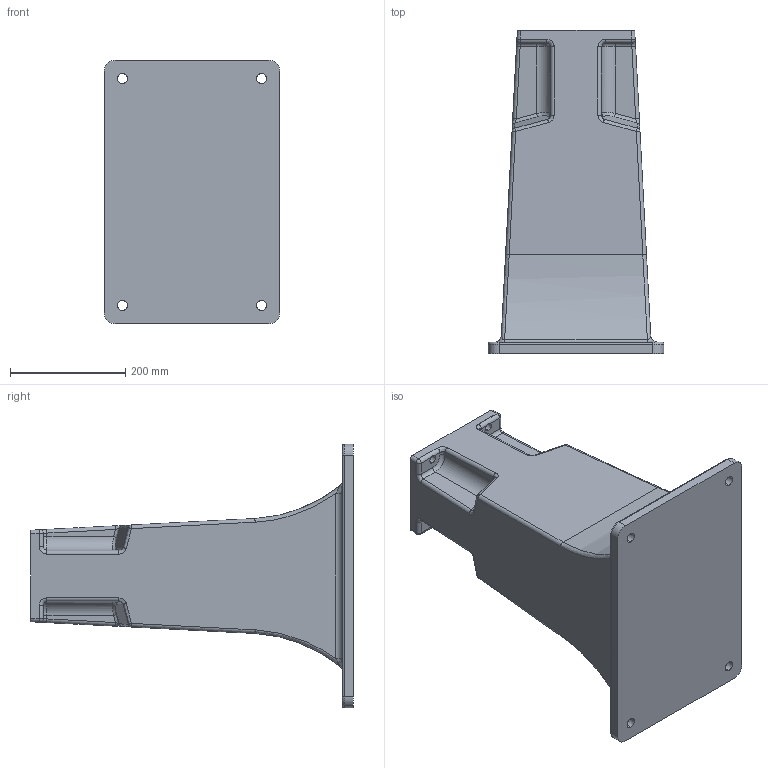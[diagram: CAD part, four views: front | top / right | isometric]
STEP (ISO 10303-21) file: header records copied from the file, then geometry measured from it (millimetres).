
FILE_DESCRIPTION (( 'STEP AP214' ), '1' );
FILE_NAME ('210-320 Universal 3 Pedestal 22 inch.STEP', '2017-11-02T19:28:46', ( '' ), ( '' ), 'SwSTEP 2.0', 'SolidWorks 2014', '' );
FILE_SCHEMA (( 'AUTOMOTIVE_DESIGN' ));
Length unit declared in the file: inch
Products named in the file (1): 210-320 Universal 3 Pedestal 22 inch
Bounding box: 304.8 x 560.37 x 457.2 mm (x, y, z)
Volume: 26278834 mm3; surface area: 725158.8 mm2
Topology: 1 solids, 1 shells, 159 faces, 390 edges, 226 vertices
Faces by surface type: cylinder 70, bspline 48, plane 23, sphere 10, torus 8
Entity records: 7136 total; most frequent: CARTESIAN_POINT 3668, ORIENTED_EDGE 772, DIRECTION 666, EDGE_CURVE 386, AXIS2_PLACEMENT_3D 268, VERTEX_POINT 226, EDGE_LOOP 172, ADVANCED_FACE 159
